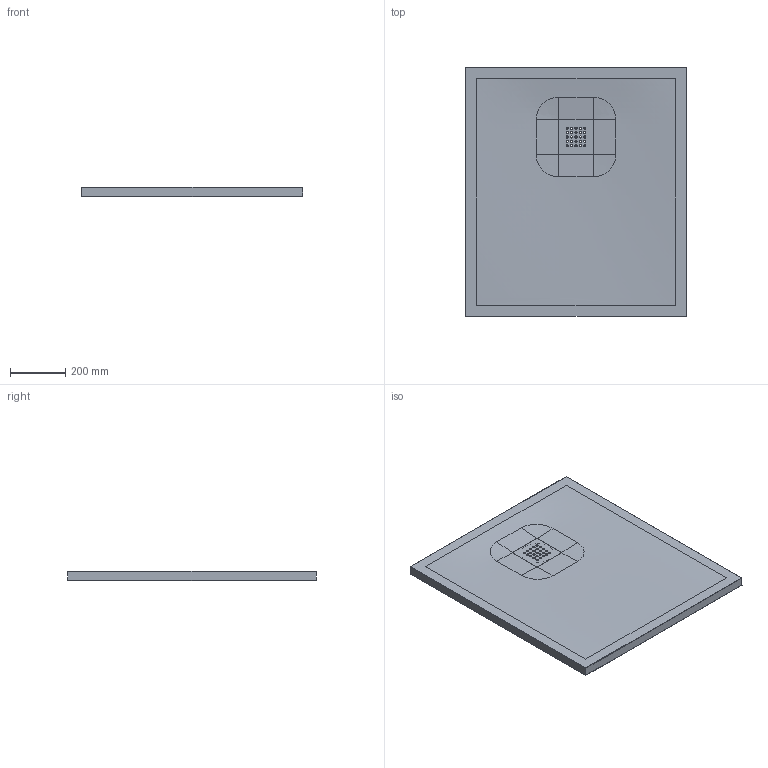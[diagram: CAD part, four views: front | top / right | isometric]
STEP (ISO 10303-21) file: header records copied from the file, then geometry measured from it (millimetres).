
FILE_DESCRIPTION(/* description */ (''),/* implementation_level */ '2;1');
FILE_NAME(/* name */ '900X800',/* time_stamp */ '2024-04-17T11:25:17+02:00',/* author */ (''),/* organization */ (''),/* preprocessor_version */ 'ST-DEVELOPER v16.5',/* originating_system */ 'Rhino 7.36',/* authorisation */ '');
FILE_SCHEMA (('CONFIG_CONTROL_DESIGN'));
Length unit declared in the file: millimetre
Products named in the file (1): Document
Bounding box: 799.98 x 899.98 x 33 mm (x, y, z)
Volume: 20600717.1 mm3; surface area: 1568004.6 mm2
Topology: 2 solids, 2 shells, 120 faces, 314 edges, 194 vertices
Faces by surface type: cylinder 74, plane 25, bspline 21
Entity records: 15938 total; most frequent: CARTESIAN_POINT 13856, ORIENTED_EDGE 608, EDGE_CURVE 304, VERTEX_POINT 192, EDGE_LOOP 176, ADVANCED_FACE 120, FACE_OUTER_BOUND 120, DIRECTION 105
